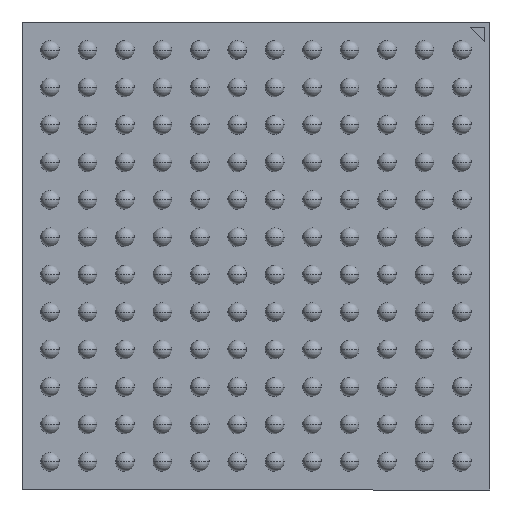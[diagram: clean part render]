
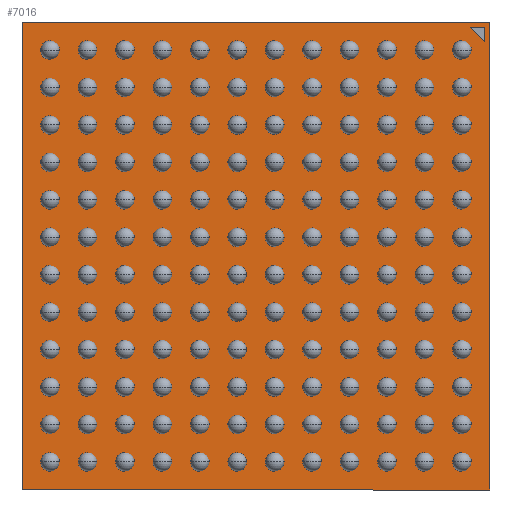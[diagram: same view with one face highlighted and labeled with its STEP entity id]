
A CAD part, front view. The second image highlights one B-rep face of the part: STEP entity #7016.
In plain terms, the highlighted planar face has unit normal (0, -1, 0).
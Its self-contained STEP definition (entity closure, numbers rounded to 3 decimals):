
#85 = ORIENTED_EDGE ( 'NONE', *, *, #198, .F. ) ;
#99 = VERTEX_POINT ( 'NONE', #358 ) ;
#153 = CARTESIAN_POINT ( 'NONE',  ( 4.891, 0., 4.891 ) ) ;
#177 = LINE ( 'NONE', #1052, #5262 ) ;
#198 = EDGE_CURVE ( 'NONE', #3191, #5853, #9578, .T. ) ;
#358 = CARTESIAN_POINT ( 'NONE',  ( -5., 0., 5. ) ) ;
#440 = VECTOR ( 'NONE', #8450, 1000. ) ;
#644 = VECTOR ( 'NONE', #9953, 1000. ) ;
#809 = CARTESIAN_POINT ( 'NONE',  ( 4.891, 0., 4.891 ) ) ;
#896 = CARTESIAN_POINT ( 'NONE',  ( 4.591, 0., 4.891 ) ) ;
#967 = CARTESIAN_POINT ( 'NONE',  ( 5., 0., -5. ) ) ;
#1052 = CARTESIAN_POINT ( 'NONE',  ( 4.891, 0., 4.891 ) ) ;
#1056 = VECTOR ( 'NONE', #1083, 1000. ) ;
#1083 = DIRECTION ( 'NONE',  ( 0., 0., 1. ) ) ;
#1277 = CARTESIAN_POINT ( 'NONE',  ( 5., 0., -5. ) ) ;
#1347 = DIRECTION ( 'NONE',  ( 1., 0., 0. ) ) ;
#2142 = CARTESIAN_POINT ( 'NONE',  ( -5., 0., -5. ) ) ;
#2182 = ORIENTED_EDGE ( 'NONE', *, *, #7301, .F. ) ;
#2202 = ORIENTED_EDGE ( 'NONE', *, *, #6199, .F. ) ;
#2397 = LINE ( 'NONE', #11476, #1056 ) ;
#2427 = CARTESIAN_POINT ( 'NONE',  ( 4.591, 0., 4.891 ) ) ;
#2466 = LINE ( 'NONE', #4191, #9847 ) ;
#3191 = VERTEX_POINT ( 'NONE', #11450 ) ;
#3517 = EDGE_LOOP ( 'NONE', ( #4726, #3693, #2202 ) ) ;
#3693 = ORIENTED_EDGE ( 'NONE', *, *, #6681, .F. ) ;
#4079 = FACE_OUTER_BOUND ( 'NONE', #5467, .T. ) ;
#4191 = CARTESIAN_POINT ( 'NONE',  ( 5., 0., 5. ) ) ;
#4212 = CARTESIAN_POINT ( 'NONE',  ( 4.891, 0., 4.591 ) ) ;
#4668 = VERTEX_POINT ( 'NONE', #153 ) ;
#4726 = ORIENTED_EDGE ( 'NONE', *, *, #6855, .F. ) ;
#4905 = DIRECTION ( 'NONE',  ( 0., 0., -1. ) ) ;
#5262 = VECTOR ( 'NONE', #7696, 1000. ) ;
#5337 = EDGE_CURVE ( 'NONE', #5853, #12157, #7420, .T. ) ;
#5467 = EDGE_LOOP ( 'NONE', ( #2182, #6827, #85, #11667 ) ) ;
#5853 = VERTEX_POINT ( 'NONE', #967 ) ;
#5995 = DIRECTION ( 'NONE',  ( 0., 1., 0. ) ) ;
#6130 = EDGE_CURVE ( 'NONE', #99, #3191, #2466, .T. ) ;
#6199 = EDGE_CURVE ( 'NONE', #11427, #8396, #8660, .T. ) ;
#6681 = EDGE_CURVE ( 'NONE', #8396, #4668, #6853, .T. ) ;
#6827 = ORIENTED_EDGE ( 'NONE', *, *, #5337, .F. ) ;
#6853 = LINE ( 'NONE', #809, #440 ) ;
#6855 = EDGE_CURVE ( 'NONE', #4668, #11427, #177, .T. ) ;
#6906 = CARTESIAN_POINT ( 'NONE',  ( 0., 0., 0. ) ) ;
#7016 = ADVANCED_FACE ( 'NONE', ( #11044, #4079 ), #11571, .F. ) ;
#7301 = EDGE_CURVE ( 'NONE', #12157, #99, #2397, .T. ) ;
#7420 = LINE ( 'NONE', #1277, #8442 ) ;
#7696 = DIRECTION ( 'NONE',  ( -1., 0., 0. ) ) ;
#7745 = DIRECTION ( 'NONE',  ( 0., 0., 1. ) ) ;
#7854 = CARTESIAN_POINT ( 'NONE',  ( 5., 0., 5. ) ) ;
#8396 = VERTEX_POINT ( 'NONE', #4212 ) ;
#8442 = VECTOR ( 'NONE', #8684, 1000. ) ;
#8450 = DIRECTION ( 'NONE',  ( 0., 0., 1. ) ) ;
#8660 = LINE ( 'NONE', #2427, #644 ) ;
#8684 = DIRECTION ( 'NONE',  ( -1., 0., 0. ) ) ;
#9524 = AXIS2_PLACEMENT_3D ( 'NONE', #6906, #5995, #7745 ) ;
#9578 = LINE ( 'NONE', #7854, #11690 ) ;
#9847 = VECTOR ( 'NONE', #1347, 1000. ) ;
#9953 = DIRECTION ( 'NONE',  ( 0.707, 0., -0.707 ) ) ;
#11044 = FACE_BOUND ( 'NONE', #3517, .T. ) ;
#11427 = VERTEX_POINT ( 'NONE', #896 ) ;
#11450 = CARTESIAN_POINT ( 'NONE',  ( 5., 0., 5. ) ) ;
#11476 = CARTESIAN_POINT ( 'NONE',  ( -5., 0., 5. ) ) ;
#11571 = PLANE ( 'NONE',  #9524 ) ;
#11667 = ORIENTED_EDGE ( 'NONE', *, *, #6130, .F. ) ;
#11690 = VECTOR ( 'NONE', #4905, 1000. ) ;
#12157 = VERTEX_POINT ( 'NONE', #2142 ) ;
